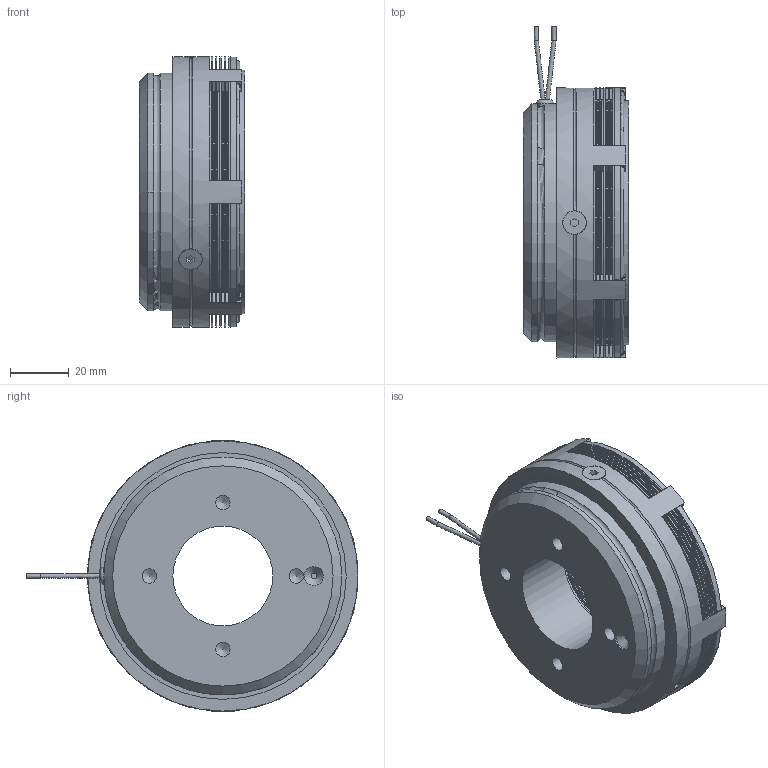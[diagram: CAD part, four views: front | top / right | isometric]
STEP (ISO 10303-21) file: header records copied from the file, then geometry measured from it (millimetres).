
FILE_DESCRIPTION(/* description */ (''),/* implementation_level */ '2;1');
FILE_NAME(/* name */ 'X:\INVENTOR\DISEGNI\05_Friz_Elettmag-Lam\05_06 EC_F\05_06_092_01 EC_F092\05_06_092_01 EC_F092@STEP.stp',/* time_stamp */ '2023-03-09T11:47:27+01:00',/* author */ ('alessio'),/* organization */ (''),/* preprocessor_version */ 'ST-DEVELOPER v18.1',/* originating_system */ 'Autodesk Inventor 2021',/* authorisation */ '');
FILE_SCHEMA (('AUTOMOTIVE_DESIGN { 1 0 10303 214 3 1 1 }'));
Length unit declared in the file: millimetre
Products named in the file (1): 05_06_092_01 EC_F092
Bounding box: 36 x 113 x 92 mm (x, y, z)
Volume: 155214.3 mm3; surface area: 91525.9 mm2
Topology: 8 solids, 8 shells, 1070 faces, 3129 edges, 2063 vertices
Faces by surface type: cylinder 784, plane 241, cone 27, torus 13, bspline 5
Full cylindrical faces by diameter (mm): 1.5 x6, 2 x1, 4 x3, 4.2 x3, 4.917 x4, 5 x1, 6.5 x1, 34 x1, 44 x1, 44.5 x5, 46 x1, 57 x1, 75 x1, 81 x1, 83 x1, 83.35 x4, 92 x2
Entity records: 38793 total; most frequent: CARTESIAN_POINT 7723, DIRECTION 6789, ORIENTED_EDGE 6254, EDGE_CURVE 3127, AXIS2_PLACEMENT_3D 2755, VERTEX_POINT 2063, CIRCLE 1653, LINE 1279
